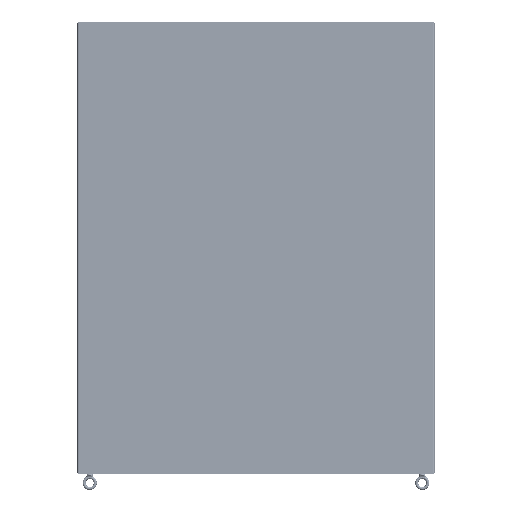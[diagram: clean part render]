
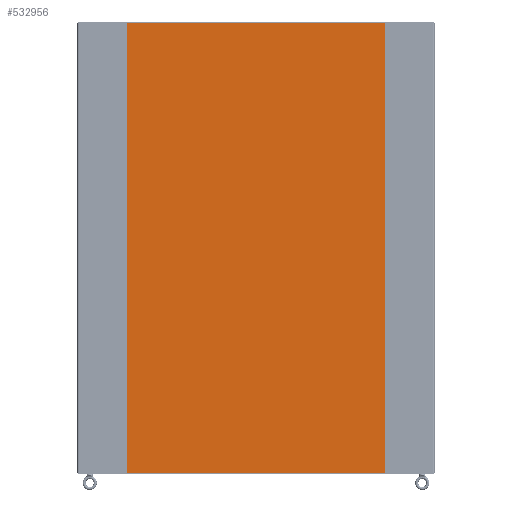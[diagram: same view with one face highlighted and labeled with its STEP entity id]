
A CAD part, left-side view. The second image highlights one B-rep face of the part: STEP entity #532956.
In plain terms, the highlighted planar face has unit normal (-1, 0, 0) as drawn and (0, 0, -1) by its records, which use the part's own axes.
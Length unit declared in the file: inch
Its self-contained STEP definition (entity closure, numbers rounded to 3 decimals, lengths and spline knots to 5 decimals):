
#532518=CARTESIAN_POINT('',(-19.335,33.856,-0.104));
#532519=DIRECTION('',(0.,0.,-1.));
#532520=DIRECTION('',(-1.,0.,0.));
#532521=AXIS2_PLACEMENT_3D('',#532518,#532519,#532520);
#532526=DIRECTION('',(0.,-1.,0.));
#532527=VECTOR('',#532526,67.712);
#532528=CARTESIAN_POINT('',(-19.375,33.856,-0.104));
#532529=LINE('',#532528,#532527);
#532533=CARTESIAN_POINT('',(-19.335,-33.856,-0.104));
#532534=DIRECTION('',(0.,0.,-1.));
#532535=DIRECTION('',(0.,-1.,0.));
#532536=AXIS2_PLACEMENT_3D('',#532533,#532534,#532535);
#532541=DIRECTION('',(1.,0.,0.));
#532542=VECTOR('',#532541,38.67);
#532543=CARTESIAN_POINT('',(-19.335,-33.896,-0.104));
#532544=LINE('',#532543,#532542);
#532548=CARTESIAN_POINT('',(19.335,-33.856,-0.104));
#532549=DIRECTION('',(0.,0.,-1.));
#532550=DIRECTION('',(1.,0.,0.));
#532551=AXIS2_PLACEMENT_3D('',#532548,#532549,#532550);
#532556=DIRECTION('',(0.,1.,0.));
#532557=VECTOR('',#532556,67.712);
#532558=CARTESIAN_POINT('',(19.375,-33.856,-0.104));
#532559=LINE('',#532558,#532557);
#532563=CARTESIAN_POINT('',(19.335,33.856,-0.104));
#532564=DIRECTION('',(0.,0.,-1.));
#532565=DIRECTION('',(0.,1.,0.));
#532566=AXIS2_PLACEMENT_3D('',#532563,#532564,#532565);
#532571=DIRECTION('',(-1.,0.,0.));
#532572=VECTOR('',#532571,38.67);
#532573=CARTESIAN_POINT('',(19.335,33.896,-0.104));
#532574=LINE('',#532573,#532572);
#532672=CARTESIAN_POINT('',(-19.375,33.856,-0.104));
#532673=VERTEX_POINT('',#532672);
#532674=CARTESIAN_POINT('',(-19.335,33.896,-0.104));
#532675=VERTEX_POINT('',#532674);
#532680=CARTESIAN_POINT('',(-19.335,-33.896,-0.104));
#532681=VERTEX_POINT('',#532680);
#532682=CARTESIAN_POINT('',(-19.375,-33.856,-0.104));
#532683=VERTEX_POINT('',#532682);
#532688=CARTESIAN_POINT('',(19.335,33.896,-0.104));
#532689=VERTEX_POINT('',#532688);
#532690=CARTESIAN_POINT('',(19.335,-33.896,-0.104));
#532691=VERTEX_POINT('',#532690);
#532694=CARTESIAN_POINT('',(19.375,33.856,-0.104));
#532695=VERTEX_POINT('',#532694);
#532698=CARTESIAN_POINT('',(19.375,-33.856,-0.104));
#532699=VERTEX_POINT('',#532698);
#532941=CARTESIAN_POINT('',(0.,0.,-0.104));
#532942=DIRECTION('',(0.,0.,1.));
#532943=DIRECTION('',(1.,0.,0.));
#532944=AXIS2_PLACEMENT_3D('',#532941,#532942,#532943);
#532945=PLANE('',#532944);
#532946=ORIENTED_EDGE('',*,*,#532781,.F.);
#532947=ORIENTED_EDGE('',*,*,#532804,.T.);
#532948=ORIENTED_EDGE('',*,*,#532824,.F.);
#532949=ORIENTED_EDGE('',*,*,#532846,.T.);
#532950=ORIENTED_EDGE('',*,*,#532866,.F.);
#532951=ORIENTED_EDGE('',*,*,#532886,.T.);
#532952=ORIENTED_EDGE('',*,*,#532908,.F.);
#532953=ORIENTED_EDGE('',*,*,#532927,.T.);
#532954=EDGE_LOOP('',(#532946,#532947,#532948,#532949,#532950,#532951,#532952,
#532953));
#532955=FACE_OUTER_BOUND('',#532954,.F.);
#532522=CIRCLE('',#532521,0.04);
#532537=CIRCLE('',#532536,0.04);
#532552=CIRCLE('',#532551,0.04);
#532567=CIRCLE('',#532566,0.04);
#532781=EDGE_CURVE('',#532673,#532675,#532522,.T.);
#532804=EDGE_CURVE('',#532673,#532683,#532529,.T.);
#532824=EDGE_CURVE('',#532681,#532683,#532537,.T.);
#532846=EDGE_CURVE('',#532681,#532691,#532544,.T.);
#532866=EDGE_CURVE('',#532699,#532691,#532552,.T.);
#532886=EDGE_CURVE('',#532699,#532695,#532559,.T.);
#532908=EDGE_CURVE('',#532689,#532695,#532567,.T.);
#532927=EDGE_CURVE('',#532689,#532675,#532574,.T.);
#532956=ADVANCED_FACE('',(#532955),#532945,.F.);
